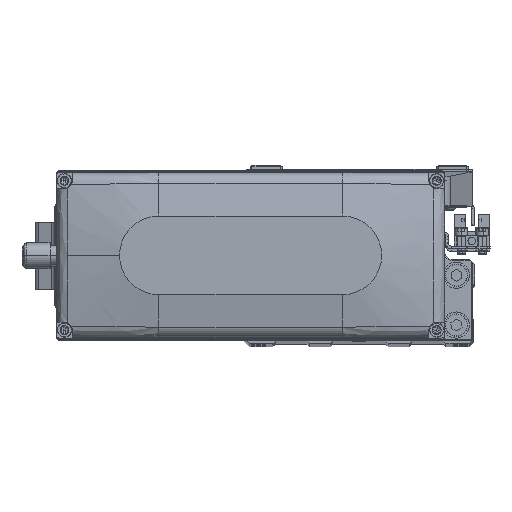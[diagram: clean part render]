
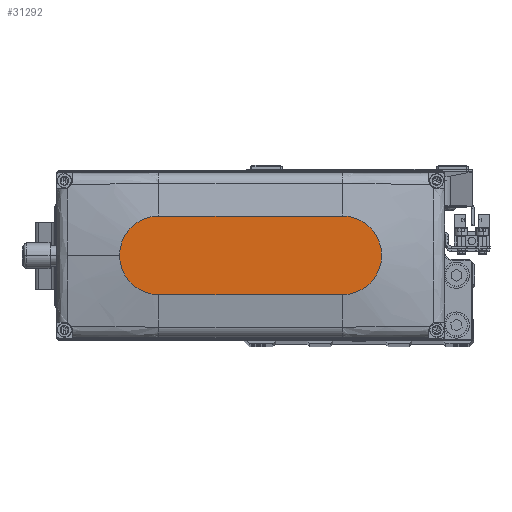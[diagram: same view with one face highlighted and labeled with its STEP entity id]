
A CAD part, top view. The second image highlights one B-rep face of the part: STEP entity #31292.
In plain terms, the highlighted planar face has unit normal (0, 0, 1).
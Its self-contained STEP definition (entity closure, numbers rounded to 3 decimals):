
#121 = VERTEX_POINT ( 'NONE', #20414 ) ;
#829 = ORIENTED_EDGE ( 'NONE', *, *, #8722, .T. ) ;
#2435 = LINE ( 'NONE', #17443, #23331 ) ;
#3158 = CIRCLE ( 'NONE', #30652, 15. ) ;
#5701 = CIRCLE ( 'NONE', #33180, 15. ) ;
#6023 = EDGE_CURVE ( 'NONE', #121, #15051, #3158, .T. ) ;
#7355 = EDGE_CURVE ( 'NONE', #28691, #121, #14889, .T. ) ;
#7986 = DIRECTION ( 'NONE',  ( 0., 0., 1. ) ) ;
#8722 = EDGE_CURVE ( 'NONE', #27564, #28691, #5701, .T. ) ;
#9041 = AXIS2_PLACEMENT_3D ( 'NONE', #14065, #29066, #44095 ) ;
#12378 = DIRECTION ( 'NONE',  ( 0., 0., 1. ) ) ;
#13078 = CARTESIAN_POINT ( 'NONE',  ( 50., 0., 35. ) ) ;
#14065 = CARTESIAN_POINT ( 'NONE',  ( 0., 0., 35. ) ) ;
#14147 = CARTESIAN_POINT ( 'NONE',  ( -35., -15., 35. ) ) ;
#14150 = CARTESIAN_POINT ( 'NONE',  ( -35., 0., 35. ) ) ;
#14889 = LINE ( 'NONE', #29895, #46387 ) ;
#15051 = VERTEX_POINT ( 'NONE', #14147 ) ;
#16958 = CARTESIAN_POINT ( 'NONE',  ( 35., -15., 35. ) ) ;
#17443 = CARTESIAN_POINT ( 'NONE',  ( -35., -15., 35. ) ) ;
#20414 = CARTESIAN_POINT ( 'NONE',  ( -35., 15., 35. ) ) ;
#22591 = AXIS2_PLACEMENT_3D ( 'NONE', #46103, #12378, #27387 ) ;
#23014 = DIRECTION ( 'NONE',  ( 1., 0., 0. ) ) ;
#23331 = VECTOR ( 'NONE', #32453, 1000. ) ;
#26257 = EDGE_LOOP ( 'NONE', ( #43196, #28810, #34858, #37845, #829 ) ) ;
#27387 = DIRECTION ( 'NONE',  ( 1., 0., 0. ) ) ;
#27564 = VERTEX_POINT ( 'NONE', #13078 ) ;
#28691 = VERTEX_POINT ( 'NONE', #30793 ) ;
#28810 = ORIENTED_EDGE ( 'NONE', *, *, #6023, .T. ) ;
#29066 = DIRECTION ( 'NONE',  ( 0., 0., 1. ) ) ;
#29157 = DIRECTION ( 'NONE',  ( 0., 0., 1. ) ) ;
#29895 = CARTESIAN_POINT ( 'NONE',  ( -35., 15., 35. ) ) ;
#30458 = EDGE_CURVE ( 'NONE', #15051, #42345, #2435, .T. ) ;
#30652 = AXIS2_PLACEMENT_3D ( 'NONE', #14150, #29157, #44182 ) ;
#30793 = CARTESIAN_POINT ( 'NONE',  ( 35., 15., 35. ) ) ;
#31104 = EDGE_CURVE ( 'NONE', #42345, #27564, #43808, .T. ) ;
#31292 = ADVANCED_FACE ( 'NONE', ( #32754 ), #47782, .T. ) ;
#32453 = DIRECTION ( 'NONE',  ( 1., 0., 0. ) ) ;
#32754 = FACE_OUTER_BOUND ( 'NONE', #26257, .T. ) ;
#33180 = AXIS2_PLACEMENT_3D ( 'NONE', #41719, #7986, #23014 ) ;
#34858 = ORIENTED_EDGE ( 'NONE', *, *, #30458, .T. ) ;
#37845 = ORIENTED_EDGE ( 'NONE', *, *, #31104, .T. ) ;
#41719 = CARTESIAN_POINT ( 'NONE',  ( 35., 0., 35. ) ) ;
#42345 = VERTEX_POINT ( 'NONE', #16958 ) ;
#43196 = ORIENTED_EDGE ( 'NONE', *, *, #7355, .T. ) ;
#43808 = CIRCLE ( 'NONE', #22591, 15. ) ;
#44095 = DIRECTION ( 'NONE',  ( 1., 0., 0. ) ) ;
#44182 = DIRECTION ( 'NONE',  ( 1., 0., 0. ) ) ;
#44926 = DIRECTION ( 'NONE',  ( -1., 0., 0. ) ) ;
#46103 = CARTESIAN_POINT ( 'NONE',  ( 35., 0., 35. ) ) ;
#46387 = VECTOR ( 'NONE', #44926, 1000. ) ;
#47782 = PLANE ( 'NONE',  #9041 ) ;
